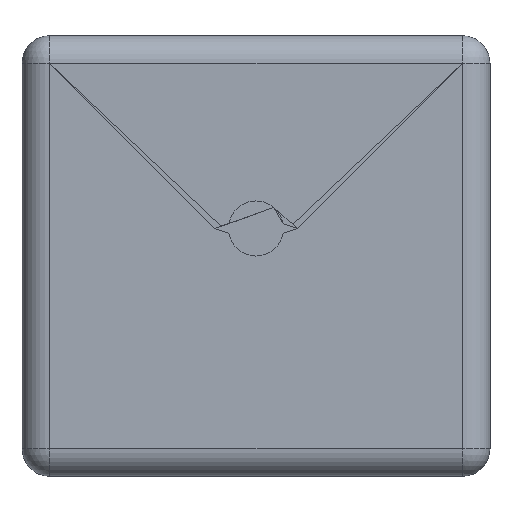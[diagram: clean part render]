
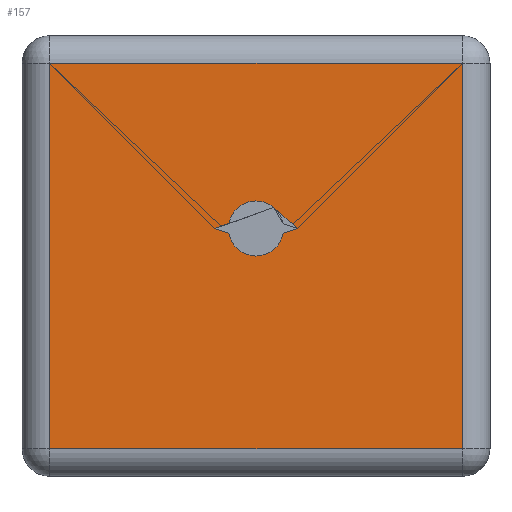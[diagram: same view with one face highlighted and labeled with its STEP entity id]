
A CAD part, left-side view. The second image highlights one B-rep face of the part: STEP entity #157.
In plain terms, the highlighted planar face has unit normal (-1, 0, 0).
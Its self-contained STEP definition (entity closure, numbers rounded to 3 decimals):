
#26 = CARTESIAN_POINT ( 'NONE',  ( -1.6, 0.75, 1.5 ) ) ;
#27 = VERTEX_POINT ( 'NONE', #26 ) ;
#52 = CARTESIAN_POINT ( 'NONE',  ( -1.6, -0.15, 0.9 ) ) ;
#53 = VERTEX_POINT ( 'NONE', #52 ) ;
#69 = CARTESIAN_POINT ( 'NONE',  ( -1.6, 0.15, 0.9 ) ) ;
#70 = VERTEX_POINT ( 'NONE', #69 ) ;
#77 = CARTESIAN_POINT ( 'NONE',  ( -1.6, 0., 0.9 ) ) ;
#78 = DIRECTION ( 'NONE',  ( -1., 0., 0. ) ) ;
#79 = DIRECTION ( 'NONE',  ( 0., -1., 0. ) ) ;
#80 = AXIS2_PLACEMENT_3D ( 'NONE', #77, #78, #79 ) ;
#81 = CIRCLE ( 'NONE', #80, 0.1) ;
#82 = EDGE_CURVE ( 'NONE', #70, #53, #81, .T. ) ;
#100 = CARTESIAN_POINT ( 'NONE',  ( -1.6, 0., 0.9 ) ) ;
#101 = DIRECTION ( 'NONE',  ( -1., 0., 0. ) ) ;
#102 = DIRECTION ( 'NONE',  ( 0., -1., 0. ) ) ;
#103 = AXIS2_PLACEMENT_3D ( 'NONE', #100, #101, #102 ) ;
#104 = CIRCLE ( 'NONE', #103, 0.1) ;
#105 = EDGE_CURVE ( 'NONE', #53, #70, #104, .T. ) ;
#116 = CARTESIAN_POINT ( 'NONE',  ( -1.6, 0.75, 0.1 ) ) ;
#117 = VERTEX_POINT ( 'NONE', #116 ) ;
#118 = CARTESIAN_POINT ( 'NONE',  ( -1.6, 0.75, 1.6 ) ) ;
#119 = DIRECTION ( 'NONE',  ( 0., 0., 1. ) ) ;
#120 = VECTOR ( 'NONE', #119, 1000. ) ;
#121 = LINE ( 'NONE', #118, #120 ) ;
#122 = EDGE_CURVE ( 'NONE', #117, #27, #121, .T. ) ;
#123 = ORIENTED_EDGE ( 'NONE', *, *, #122, .F. ) ;
#124 = CARTESIAN_POINT ( 'NONE',  ( -1.6, -0.75, 0.1 ) ) ;
#125 = VERTEX_POINT ( 'NONE', #124 ) ;
#126 = CARTESIAN_POINT ( 'NONE',  ( -1.6, 0.85, 0.1 ) ) ;
#127 = DIRECTION ( 'NONE',  ( 0., 1., 0. ) ) ;
#128 = VECTOR ( 'NONE', #127, 1000. ) ;
#129 = LINE ( 'NONE', #126, #128 ) ;
#130 = EDGE_CURVE ( 'NONE', #125, #117, #129, .T. ) ;
#131 = ORIENTED_EDGE ( 'NONE', *, *, #130, .F. ) ;
#132 = CARTESIAN_POINT ( 'NONE',  ( -1.6, -0.75, 1.5 ) ) ;
#133 = VERTEX_POINT ( 'NONE', #132 ) ;
#134 = CARTESIAN_POINT ( 'NONE',  ( -1.6, -0.75, 0. ) ) ;
#135 = DIRECTION ( 'NONE',  ( 0., 0., -1. ) ) ;
#136 = VECTOR ( 'NONE', #135, 1000. ) ;
#137 = LINE ( 'NONE', #134, #136 ) ;
#138 = EDGE_CURVE ( 'NONE', #133, #125, #137, .T. ) ;
#139 = ORIENTED_EDGE ( 'NONE', *, *, #138, .F. ) ;
#140 = CARTESIAN_POINT ( 'NONE',  ( -1.6, -0.85, 1.5 ) ) ;
#141 = DIRECTION ( 'NONE',  ( 0., -1., 0. ) ) ;
#142 = VECTOR ( 'NONE', #141, 1000. ) ;
#143 = LINE ( 'NONE', #140, #142 ) ;
#144 = EDGE_CURVE ( 'NONE', #27, #133, #143, .T. ) ;
#145 = ORIENTED_EDGE ( 'NONE', *, *, #144, .F. ) ;
#146 = EDGE_LOOP ( 'NONE', ( #123, #131, #139, #145 ) ) ;
#147 = FACE_OUTER_BOUND ( 'NONE', #146, .T. ) ;
#148 = ORIENTED_EDGE ( 'NONE', *, *, #82, .F. ) ;
#149 = ORIENTED_EDGE ( 'NONE', *, *, #105, .F. ) ;
#150 = EDGE_LOOP ( 'NONE', ( #148, #149 ) ) ;
#151 = FACE_BOUND ( 'NONE', #150, .T. ) ;
#152 = CARTESIAN_POINT ( 'NONE',  ( -1.6, 0., 0. ) ) ;
#153 = DIRECTION ( 'NONE',  ( -1., 0., 0. ) ) ;
#154 = DIRECTION ( 'NONE',  ( 0., 1., 0. ) ) ;
#155 = AXIS2_PLACEMENT_3D ( 'NONE', #152, #153, #154 ) ;
#156 = PLANE ( 'NONE', #155 ) ;
#157 = ADVANCED_FACE ( 'NONE', ( #147, #151 ), #156, .T. ) ;
